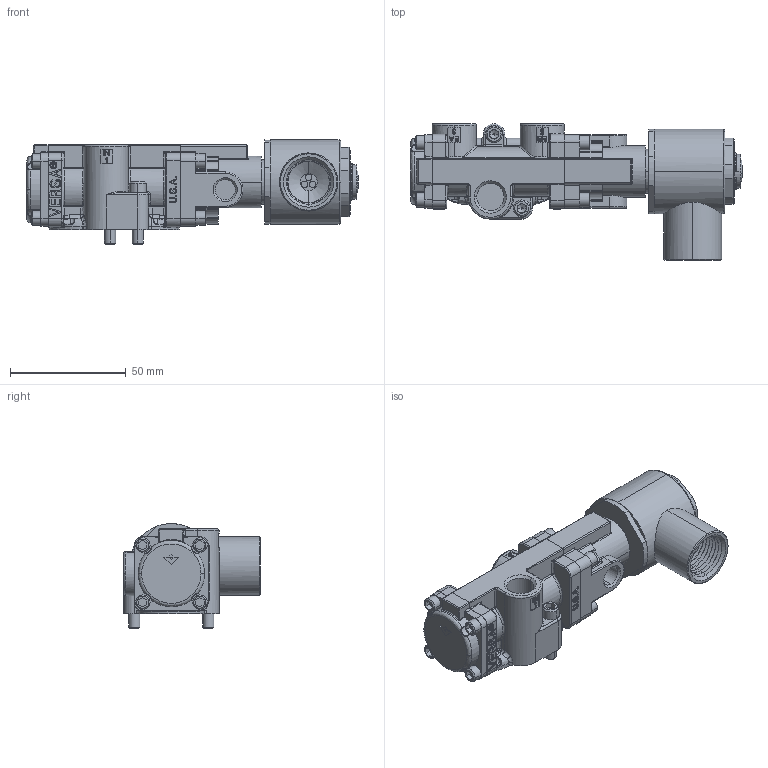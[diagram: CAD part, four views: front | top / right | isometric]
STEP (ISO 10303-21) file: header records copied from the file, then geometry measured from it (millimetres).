
FILE_DESCRIPTION (( 'STEP AP214' ), '1' );
FILE_NAME ('TVSS-X411-7N-XXX.STEP', '2025-05-08T15:04:29', ( '' ), ( '' ), 'SwSTEP 2.0', 'SolidWorks 2023', '' );
FILE_SCHEMA (( 'AUTOMOTIVE_DESIGN' ));
Length unit declared in the file: inch
Products named in the file (5): 18614; 18612; 18615; TVSS-X411-7N-XXX; 18613
Assembly tree (4 placements, depth 2):
  TVSS-X411-7N-XXX
    18614
    18615
    18612
    18613
Bounding box: 143.49 x 59.12 x 45.21 mm (x, y, z)
Volume: 126269.5 mm3; surface area: 35575.5 mm2
Topology: 4 solids, 4 shells, 1436 faces, 3742 edges, 2374 vertices
Faces by surface type: plane 807, cylinder 269, bspline 264, cone 92, torus 4
Entity records: 71430 total; most frequent: CARTESIAN_POINT 38486, ORIENTED_EDGE 7442, DIRECTION 5927, EDGE_CURVE 3721, VERTEX_POINT 2374, VECTOR 2113, LINE 2113, AXIS2_PLACEMENT_3D 1907
